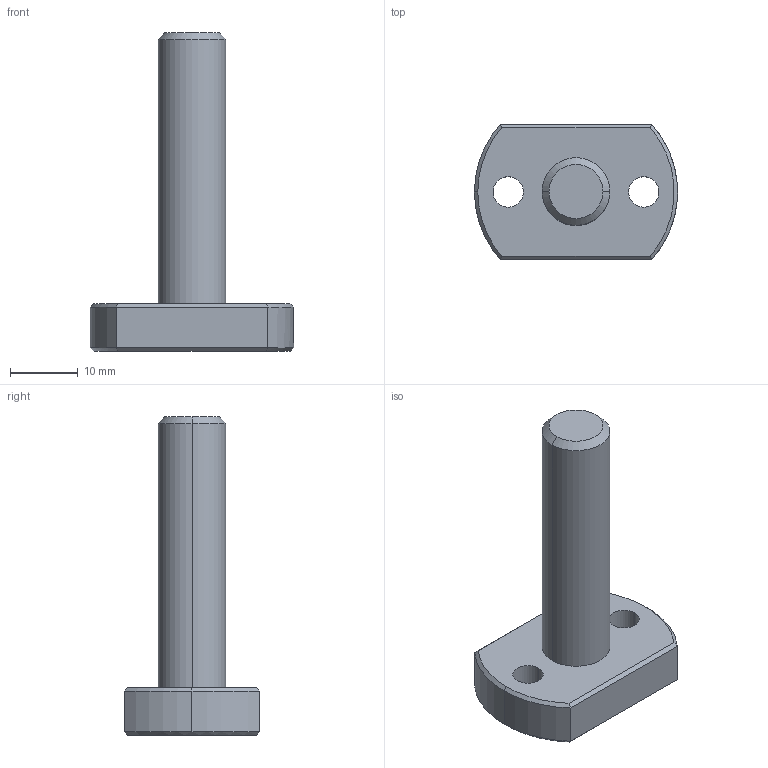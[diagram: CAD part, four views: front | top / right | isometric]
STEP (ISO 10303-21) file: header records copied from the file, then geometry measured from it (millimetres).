
FILE_DESCRIPTION (( 'STEP AP214' ), '1' );
FILE_NAME ('110622.STEP', '2021-10-14T06:47:24', ( '' ), ( '' ), 'SwSTEP 2.0', 'SolidWorks 2018', '' );
FILE_SCHEMA (( 'AUTOMOTIVE_DESIGN' ));
Length unit declared in the file: millimetre
Products named in the file (1): 110622
Bounding box: 30 x 20 x 47 mm (x, y, z)
Volume: 6746.3 mm3; surface area: 3042.2 mm2
Topology: 1 solids, 1 shells, 26 faces, 58 edges, 35 vertices
Faces by surface type: cylinder 9, plane 9, cone 8
Entity records: 771 total; most frequent: CARTESIAN_POINT 144, DIRECTION 131, ORIENTED_EDGE 116, EDGE_CURVE 58, AXIS2_PLACEMENT_3D 54, VERTEX_POINT 35, EDGE_LOOP 31, CIRCLE 27
